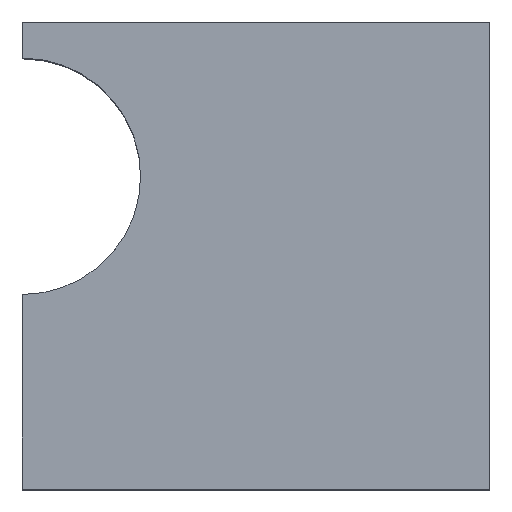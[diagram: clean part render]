
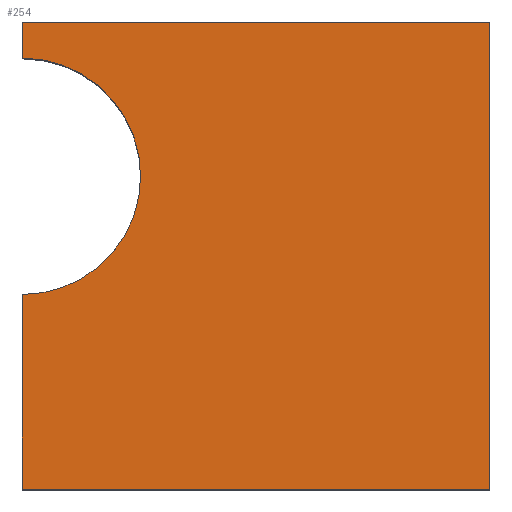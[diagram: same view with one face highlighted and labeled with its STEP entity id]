
A CAD part, top view. The second image highlights one B-rep face of the part: STEP entity #254.
In plain terms, the highlighted planar face has unit normal (0, 0, 1).
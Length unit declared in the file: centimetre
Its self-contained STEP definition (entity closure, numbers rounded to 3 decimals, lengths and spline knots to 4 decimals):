
#17 = DIRECTION ( 'NONE',  ( 0., 0., 1. ) ) ;
#21 = VECTOR ( 'NONE', #618, 100. ) ;
#86 = CARTESIAN_POINT ( 'NONE',  ( 0., 416.7519, 1000. ) ) ;
#91 = VERTEX_POINT ( 'NONE', #700 ) ;
#97 = VERTEX_POINT ( 'NONE', #1051 ) ;
#100 = PLANE ( 'NONE',  #898 ) ;
#123 = VERTEX_POINT ( 'NONE', #794 ) ;
#252 = DIRECTION ( 'NONE',  ( -1., 0., 0. ) ) ;
#254 = ADVANCED_FACE ( 'NONE', ( #914 ), #100, .T. ) ;
#260 = EDGE_CURVE ( 'NONE', #767, #123, #343, .T. ) ;
#304 = LINE ( 'NONE', #394, #707 ) ;
#314 = EDGE_LOOP ( 'NONE', ( #617, #1021, #609, #943, #584, #623 ) ) ;
#330 = VERTEX_POINT ( 'NONE', #86 ) ;
#343 = LINE ( 'NONE', #585, #372 ) ;
#372 = VECTOR ( 'NONE', #600, 100. ) ;
#394 = CARTESIAN_POINT ( 'NONE',  ( 0., 1000., 1000. ) ) ;
#413 = EDGE_CURVE ( 'NONE', #91, #767, #492, .T. ) ;
#420 = CARTESIAN_POINT ( 'NONE',  ( 0., 0., 1000. ) ) ;
#492 = LINE ( 'NONE', #420, #758 ) ;
#512 = CARTESIAN_POINT ( 'NONE',  ( 0., 0., 1000. ) ) ;
#554 = EDGE_CURVE ( 'NONE', #97, #1022, #941, .T. ) ;
#584 = ORIENTED_EDGE ( 'NONE', *, *, #673, .T. ) ;
#585 = CARTESIAN_POINT ( 'NONE',  ( 1000., 1000., 1000. ) ) ;
#590 = CIRCLE ( 'NONE', #820, 253.0348 ) ;
#596 = LINE ( 'NONE', #937, #21 ) ;
#600 = DIRECTION ( 'NONE',  ( 0., 1., 0. ) ) ;
#609 = ORIENTED_EDGE ( 'NONE', *, *, #413, .T. ) ;
#617 = ORIENTED_EDGE ( 'NONE', *, *, #1011, .T. ) ;
#618 = DIRECTION ( 'NONE',  ( 0., -1., 0. ) ) ;
#623 = ORIENTED_EDGE ( 'NONE', *, *, #554, .T. ) ;
#648 = DIRECTION ( 'NONE',  ( 0., 0., -1. ) ) ;
#672 = DIRECTION ( 'NONE',  ( 1., 0., 0. ) ) ;
#673 = EDGE_CURVE ( 'NONE', #123, #97, #304, .T. ) ;
#700 = CARTESIAN_POINT ( 'NONE',  ( 0., 0., 1000. ) ) ;
#701 = CARTESIAN_POINT ( 'NONE',  ( 0., 1000., 1000. ) ) ;
#707 = VECTOR ( 'NONE', #725, 100. ) ;
#714 = DIRECTION ( 'NONE',  ( 0., -1., 0. ) ) ;
#724 = VECTOR ( 'NONE', #714, 100. ) ;
#725 = DIRECTION ( 'NONE',  ( -1., 0., 0. ) ) ;
#752 = DIRECTION ( 'NONE',  ( 1., 0., 0. ) ) ;
#758 = VECTOR ( 'NONE', #752, 100. ) ;
#759 = CARTESIAN_POINT ( 'NONE',  ( 0., 922.8215, 1000. ) ) ;
#767 = VERTEX_POINT ( 'NONE', #1056 ) ;
#794 = CARTESIAN_POINT ( 'NONE',  ( 1000., 1000., 1000. ) ) ;
#820 = AXIS2_PLACEMENT_3D ( 'NONE', #1073, #648, #252 ) ;
#898 = AXIS2_PLACEMENT_3D ( 'NONE', #512, #17, #672 ) ;
#910 = EDGE_CURVE ( 'NONE', #330, #91, #596, .T. ) ;
#914 = FACE_OUTER_BOUND ( 'NONE', #314, .T. ) ;
#937 = CARTESIAN_POINT ( 'NONE',  ( 0., 1000., 1000. ) ) ;
#941 = LINE ( 'NONE', #701, #724 ) ;
#943 = ORIENTED_EDGE ( 'NONE', *, *, #260, .T. ) ;
#1011 = EDGE_CURVE ( 'NONE', #1022, #330, #590, .T. ) ;
#1021 = ORIENTED_EDGE ( 'NONE', *, *, #910, .T. ) ;
#1022 = VERTEX_POINT ( 'NONE', #759 ) ;
#1051 = CARTESIAN_POINT ( 'NONE',  ( 0., 1000., 1000. ) ) ;
#1056 = CARTESIAN_POINT ( 'NONE',  ( 1000., 0., 1000. ) ) ;
#1073 = CARTESIAN_POINT ( 'NONE',  ( 0., 669.7867, 1000. ) ) ;
